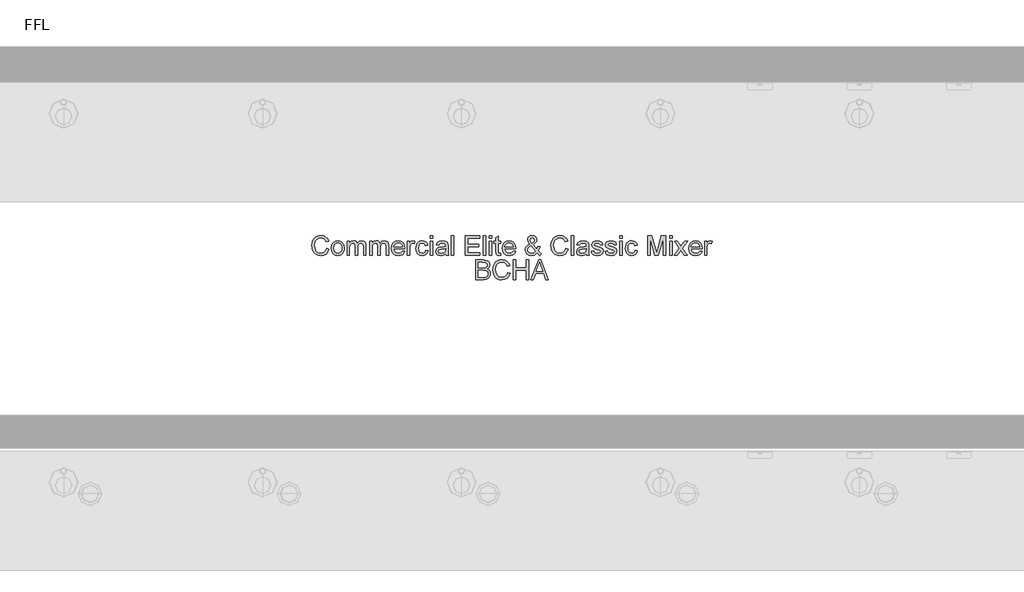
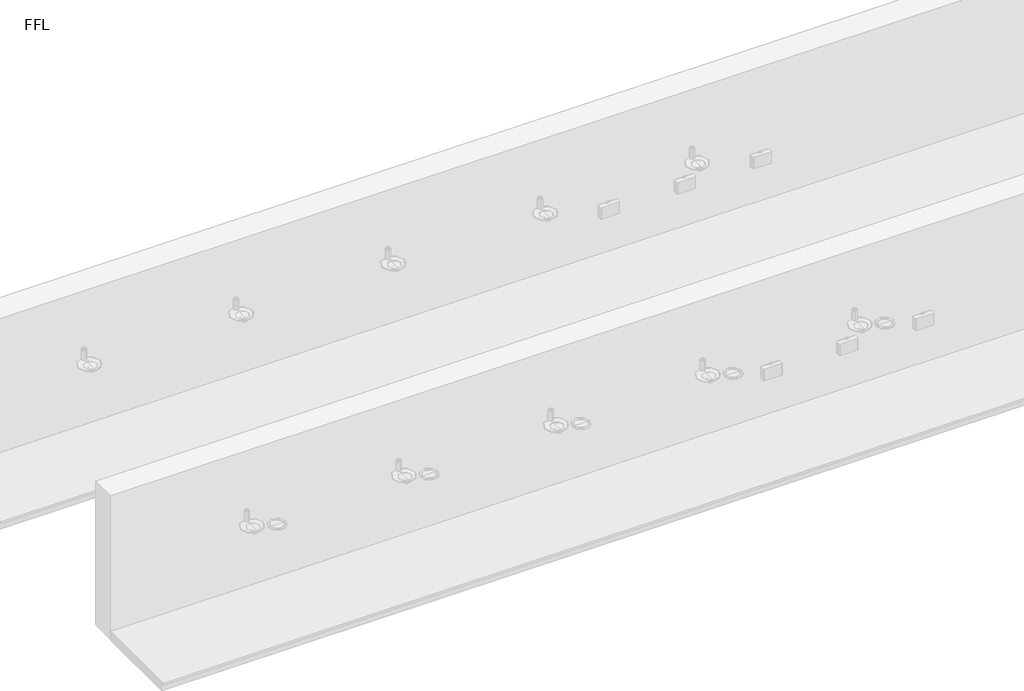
# One storey, part 4 of 13: 1 proxy.
"""IFC4 building model written with IfcOpenShell, lengths in millimetres."""

from ifc_helpers import new_model, si_unit, origin, origin_with_axes, place, context, project, spatial, polyline, outline, extrude, element, save

model = new_model("IFC4")

# Units and contexts
model_context = context("Model", 3, world=origin())
ifc_project = project(units=[si_unit("LENGTHUNIT", "METRE", prefix="MILLI")], contexts=[model_context])

# Site, building, storey
site = spatial("IfcSite", under=ifc_project)
building = spatial("IfcBuilding", under=site)
storey = spatial("IfcBuildingStorey", under=building, Name="FFL", Elevation=0.0)

# Proxy
placement = place(None, origin())
element("IfcBuildingElementProxy", 1, Name="150mm Arial", ObjectType="150mm Arial", at=placement, inside=storey, context=model_context, shape_type="SweptSolid", body=[
    extrude(outline(polyline([(-3737.4276006, -1683.6981691), (-3718.9660621, -1688.4577845), (-3727.4846919, -1709.9707052), (-3740.8530813, -1725.6873518), (-3758.4131775, -1735.301234), (-3779.5069275, -1738.5058614), (-3800.9206895, -1736.0809816), (-3817.9263986, -1728.8063422), (-3830.9612544, -1716.934347), (-3840.4624563, -1700.7173999), (-3846.2632376, -1681.6518951), (-3848.1968313, -1661.2342268), (-3846.0108337, -1639.6987701), (-3839.4528409, -1621.1020153), (-3828.865401, -1606.0344071), (-3814.5910621, -1595.0863903), (-3797.6619756, -1588.4202244), (-3779.1102929, -1586.1981691), (-3758.8684059, -1589.0737701), (-3742.1331294, -1597.700573), (-3729.4273001, -1611.5467268), (-3721.2737544, -1630.0803807), (-3739.7352929, -1634.4794191), (-3746.1355333, -1621.0163783), (-3754.8795236, -1611.7811018), (-3766.0754371, -1606.4400561), (-3779.8314467, -1604.6597076), (-3795.6878169, -1606.6338662), (-3808.7136583, -1612.5563422), (-3818.5979732, -1621.8051403), (-3825.029764, -1633.7582653), (-3829.7352929, -1661.1981691), (-3824.1643794, -1693.0010537), (-3817.0429852, -1704.8775561), (-3806.8206294, -1713.3195633), (-3794.5655212, -1718.3631331), (-3781.3458698, -1720.044323), (-3765.9357135, -1717.7546595), (-3753.0946679, -1710.8856691), (-3743.3996559, -1699.5094672), (-3737.4276006, -1683.6981691)])), origin_with_axes(), (0.0, 0.0, 1.0), 5.0),
    extrude(outline(polyline([(-3700.5045236, -1681.9673999), (-3696.5111342, -1655.8165585), (-3684.5309659, -1637.4361499), (-3669.7292833, -1628.4307412), (-3652.0069275, -1625.4289383), (-3632.6123962, -1629.0842869), (-3617.1211102, -1640.0503326), (-3606.9663626, -1657.4616908), (-3603.5814467, -1680.4529768), (-3605.0778409, -1699.1038182), (-3609.5670236, -1713.3015345), (-3616.9182857, -1723.9340465), (-3627.0009179, -1731.8892749), (-3638.9765789, -1736.8517148), (-3652.0069275, -1738.5058614), (-3671.6358337, -1734.8640345), (-3687.1090909, -1723.9385537), (-3697.1556655, -1706.1621114), (-3700.5045236, -1681.9673999)]), holes=[polyline([(-3682.0429852, -1681.9313422), (-3679.9065669, -1698.6395754), (-3673.4973121, -1710.543121), (-3663.8518794, -1717.6690225), (-3652.0069275, -1720.044323), (-3640.2160621, -1717.6555008), (-3630.5886583, -1710.4890345), (-3624.1794034, -1698.4277364), (-3622.0429852, -1681.3544191), (-3624.1929251, -1665.1329648), (-3630.6427448, -1653.3916787), (-3640.2836703, -1646.2657773), (-3652.0069275, -1643.8904768), (-3663.8518794, -1646.2567629), (-3673.4973121, -1653.355621), (-3679.9065669, -1665.2321234), (-3682.0429852, -1681.9313422)])]), origin_with_axes(), (0.0, 0.0, 1.0), 5.0),
    extrude(outline(polyline([(-3582.8122159, -1736.1981691), (-3582.8122159, -1627.7366307), (-3564.3506775, -1627.7366307), (-3564.3506775, -1645.5851883), (-3551.6583698, -1630.9637941), (-3533.5934659, -1625.4289383), (-3523.3260381, -1626.8396956), (-3515.0958698, -1631.0719672), (-3504.9276006, -1646.8832653), (-3490.5225525, -1630.7925201), (-3472.3314467, -1625.4289383), (-3458.4537424, -1627.6600081), (-3448.1908217, -1634.3532172), (-3441.8491751, -1645.6888542), (-3439.7352929, -1661.8472076), (-3439.7352929, -1736.1981691), (-3458.1968313, -1736.1981691), (-3458.1968313, -1669.7798999), (-3459.9095717, -1654.3652364), (-3466.1114948, -1646.7750922), (-3476.6583698, -1643.8904768), (-3486.6598722, -1645.7384335), (-3494.8134179, -1651.2823037), (-3500.2355934, -1660.9006932), (-3502.0429852, -1674.9722076), (-3502.0429852, -1736.1981691), (-3520.5045236, -1736.1981691), (-3520.5045236, -1667.7246114), (-3524.7773602, -1649.839996), (-3530.4158818, -1645.3778566), (-3538.7857736, -1643.8904768), (-3552.451639, -1647.856823), (-3561.5381775, -1659.4673999), (-3564.3506775, -1681.4986499), (-3564.3506775, -1736.1981691), (-3582.8122159, -1736.1981691)])), origin_with_axes(), (0.0, 0.0, 1.0), 5.0),
    extrude(outline(polyline([(-3412.0429852, -1736.1981691), (-3412.0429852, -1627.7366307), (-3393.5814467, -1627.7366307), (-3393.5814467, -1645.5851883), (-3380.889139, -1630.9637941), (-3362.8242352, -1625.4289383), (-3352.5568073, -1626.8396956), (-3344.326639, -1631.0719672), (-3334.1583698, -1646.8832653), (-3319.7533217, -1630.7925201), (-3301.5622159, -1625.4289383), (-3287.6845116, -1627.6600081), (-3277.4215909, -1634.3532172), (-3271.0799443, -1645.6888542), (-3268.9660621, -1661.8472076), (-3268.9660621, -1736.1981691), (-3287.4276006, -1736.1981691), (-3287.4276006, -1669.7798999), (-3289.1403409, -1654.3652364), (-3295.342264, -1646.7750922), (-3305.889139, -1643.8904768), (-3315.8906414, -1645.7384335), (-3324.0441871, -1651.2823037), (-3329.4663626, -1660.9006932), (-3331.2737544, -1674.9722076), (-3331.2737544, -1736.1981691), (-3349.7352929, -1736.1981691), (-3349.7352929, -1667.7246114), (-3354.0081294, -1649.839996), (-3359.646651, -1645.3778566), (-3368.0165429, -1643.8904768), (-3381.6824083, -1647.856823), (-3390.7689467, -1659.4673999), (-3393.5814467, -1681.4986499), (-3393.5814467, -1736.1981691), (-3412.0429852, -1736.1981691)])), origin_with_axes(), (0.0, 0.0, 1.0), 5.0),
    extrude(outline(polyline([(-3165.3362544, -1703.8904768), (-3147.2352929, -1706.1981691), (-3153.757228, -1719.8369912), (-3164.1643794, -1730.0323037), (-3178.2223722, -1736.387472), (-3195.6968313, -1738.5058614), (-3217.35849, -1734.8505129), (-3234.0261583, -1723.8844672), (-3244.6541631, -1706.3198638), (-3248.1968313, -1682.8688422), (-3244.6181054, -1658.6290585), (-3233.8819275, -1640.5010537), (-3217.4396198, -1629.1969672), (-3196.7425044, -1625.4289383), (-3176.6899203, -1629.1879528), (-3160.6667833, -1640.464996), (-3150.1604732, -1658.5569432), (-3146.6583698, -1682.7606691), (-3146.7665429, -1687.7366307), (-3229.7352929, -1687.7366307), (-3226.5396799, -1701.5557412), (-3219.1163025, -1711.714996), (-3208.4026607, -1717.9619912), (-3195.3362544, -1720.044323), (-3177.2352929, -1716.1861499), (-3165.3362544, -1703.8904768)]), holes=[polyline([(-3229.7352929, -1669.2750922), (-3165.1199083, -1669.2750922), (-3167.6169034, -1659.5214864), (-3172.5117352, -1652.544323), (-3183.2749563, -1646.0539383), (-3196.8146198, -1643.8904768), (-3209.2590309, -1645.6167388), (-3219.5489948, -1650.7955249), (-3226.7019395, -1658.8679408), (-3229.7352929, -1669.2750922)])]), origin_with_axes(), (0.0, 0.0, 1.0), 5.0),
    extrude(outline(polyline([(-3128.1968313, -1736.1981691), (-3128.1968313, -1627.7366307), (-3112.0429852, -1627.7366307), (-3112.0429852, -1643.7823037), (-3100.576639, -1628.9986499), (-3089.0381775, -1625.4289383), (-3070.5045236, -1631.1260537), (-3076.670389, -1647.6765345), (-3089.6511583, -1643.8904768), (-3100.0898602, -1647.5323037), (-3106.7425044, -1657.6284576), (-3109.7352929, -1679.1909576), (-3109.7352929, -1736.1981691), (-3128.1968313, -1736.1981691)])), origin_with_axes(), (0.0, 0.0, 1.0), 5.0),
    extrude(outline(polyline([(-2989.7352929, -1696.9673999), (-2971.2737544, -1699.2750922), (-2976.42099, -1715.6948638), (-2986.0934659, -1728.1032172), (-2999.3807256, -1735.9052004), (-3015.3723121, -1738.5058614), (-3035.0102328, -1734.8775561), (-3050.3663025, -1723.9926403), (-3060.2776607, -1706.3288783), (-3063.5814467, -1682.3640345), (-3057.9384179, -1651.6969672), (-3050.8170236, -1640.1990706), (-3040.7388986, -1631.9914383), (-3028.6821078, -1627.0695633), (-3015.6247159, -1625.4289383), (-3000.0252568, -1627.6825441), (-2987.5538025, -1634.4433614), (-2978.6069876, -1645.3508133), (-2973.5814467, -1660.044323), (-2992.0429852, -1662.3520153), (-3000.6066871, -1648.5238903), (-3015.4804852, -1643.8904768), (-3027.4110741, -1646.1711258), (-3036.8807256, -1653.013073), (-3043.0601126, -1664.7859095), (-3045.1199083, -1681.8592268), (-3043.1051847, -1699.1624119), (-3037.061014, -1710.9758133), (-3027.7626366, -1717.7771956), (-3015.9852929, -1720.044323), (-3006.4254972, -1718.6290585), (-2998.5874563, -1714.3832653), (-2992.8858337, -1707.1987701), (-2989.7352929, -1696.9673999)])), origin_with_axes(), (0.0, 0.0, 1.0), 5.0),
    extrude(outline(polyline([(-2955.1199083, -1606.9673999), (-2955.1199083, -1588.5058614), (-2936.6583698, -1588.5058614), (-2936.6583698, -1606.9673999), (-2955.1199083, -1606.9673999)])), origin_with_axes(), (0.0, 0.0, 1.0), 5.0),
    extrude(outline(polyline([(-2955.1199083, -1736.1981691), (-2955.1199083, -1627.7366307), (-2936.6583698, -1627.7366307), (-2936.6583698, -1736.1981691), (-2955.1199083, -1736.1981691)])), origin_with_axes(), (0.0, 0.0, 1.0), 5.0),
    extrude(outline(polyline([(-2839.7352929, -1722.3520153), (-2857.6379371, -1734.8640345), (-2877.4155813, -1738.5058614), (-2892.8437664, -1736.3153566), (-2904.2244756, -1729.7438422), (-2911.2422039, -1719.7648758), (-2913.5814467, -1707.3520153), (-2910.0477929, -1692.7486499), (-2900.7629371, -1682.1476883), (-2887.8362544, -1676.089996), (-2871.8626967, -1673.3135537), (-2839.8434659, -1666.9673999), (-2839.7352929, -1662.856823), (-2841.0063265, -1654.6176403), (-2844.8194275, -1649.2270153), (-2853.3470717, -1645.2246114), (-2865.2280813, -1643.8904768), (-2883.9059659, -1647.4421595), (-2892.8122159, -1660.044323), (-2911.2737544, -1657.7366307), (-2903.2869756, -1639.7077845), (-2887.2052448, -1629.1428807), (-2862.8482736, -1625.4289383), (-2840.4744756, -1628.7101883), (-2827.8362544, -1636.949371), (-2822.1751967, -1649.4794191), (-2821.2737544, -1665.6332653), (-2821.2737544, -1688.6020153), (-2820.3362544, -1720.6753326), (-2816.6583698, -1736.1981691), (-2835.1199083, -1736.1981691), (-2839.7352929, -1722.3520153)]), holes=[polyline([(-2839.7352929, -1685.4289383), (-2869.5189467, -1691.089996), (-2885.4023602, -1694.0827845), (-2892.5958698, -1698.950573), (-2895.1199083, -1706.0539383), (-2889.6211102, -1716.0419191), (-2873.4852929, -1720.044323), (-2854.8074083, -1715.6272557), (-2842.764139, -1704.9361499), (-2839.8434659, -1690.6573037), (-2839.7352929, -1685.4289383)])]), origin_with_axes(), (0.0, 0.0, 1.0), 5.0),
    extrude(outline(polyline([(-2795.889139, -1736.1981691), (-2795.889139, -1588.5058614), (-2777.4276006, -1588.5058614), (-2777.4276006, -1736.1981691), (-2795.889139, -1736.1981691)])), origin_with_axes(), (0.0, 0.0, 1.0), 5.0),
    extrude(outline(polyline([(-2689.7352929, -1736.1981691), (-2689.7352929, -1588.5058614), (-2583.5814467, -1588.5058614), (-2583.5814467, -1606.9673999), (-2671.2737544, -1606.9673999), (-2671.2737544, -1650.8135537), (-2588.1968313, -1650.8135537), (-2588.1968313, -1669.2750922), (-2671.2737544, -1669.2750922), (-2671.2737544, -1717.7366307), (-2581.2737544, -1717.7366307), (-2581.2737544, -1736.1981691), (-2689.7352929, -1736.1981691)])), origin_with_axes(), (0.0, 0.0, 1.0), 5.0),
    extrude(outline(polyline([(-2555.889139, -1736.1981691), (-2555.889139, -1588.5058614), (-2537.4276006, -1588.5058614), (-2537.4276006, -1736.1981691), (-2555.889139, -1736.1981691)])), origin_with_axes(), (0.0, 0.0, 1.0), 5.0),
    extrude(outline(polyline([(-2509.7352929, -1736.1981691), (-2509.7352929, -1627.7366307), (-2491.2737544, -1627.7366307), (-2491.2737544, -1736.1981691), (-2509.7352929, -1736.1981691)])), origin_with_axes(), (0.0, 0.0, 1.0), 5.0),
    extrude(outline(polyline([(-2509.7352929, -1606.9673999), (-2509.7352929, -1588.5058614), (-2491.2737544, -1588.5058614), (-2491.2737544, -1606.9673999), (-2509.7352929, -1606.9673999)])), origin_with_axes(), (0.0, 0.0, 1.0), 5.0),
    extrude(outline(polyline([(-2424.3506775, -1720.8015345), (-2422.0429852, -1736.7390345), (-2435.8530813, -1738.5058614), (-2451.3218313, -1735.4409576), (-2459.0381775, -1727.4000922), (-2461.2737544, -1706.450573), (-2461.2737544, -1646.1981691), (-2475.1199083, -1646.1981691), (-2475.1199083, -1627.7366307), (-2461.2737544, -1627.7366307), (-2461.2737544, -1601.3784576), (-2442.8122159, -1590.5250922), (-2442.8122159, -1627.7366307), (-2424.3506775, -1627.7366307), (-2424.3506775, -1646.1981691), (-2442.8122159, -1646.1981691), (-2442.8122159, -1705.9097076), (-2441.8386583, -1715.4289383), (-2438.6836102, -1718.8003326), (-2432.3915429, -1720.044323), (-2424.3506775, -1720.8015345)])), origin_with_axes(), (0.0, 0.0, 1.0), 5.0),
    extrude(outline(polyline([(-2329.951639, -1703.8904768), (-2311.8506775, -1706.1981691), (-2318.3726126, -1719.8369912), (-2328.779764, -1730.0323037), (-2342.8377568, -1736.387472), (-2360.3122159, -1738.5058614), (-2381.9738746, -1734.8505129), (-2398.6415429, -1723.8844672), (-2409.2695477, -1706.3198638), (-2412.8122159, -1682.8688422), (-2409.23349, -1658.6290585), (-2398.4973121, -1640.5010537), (-2382.0550044, -1629.1969672), (-2361.357889, -1625.4289383), (-2341.3053049, -1629.1879528), (-2325.2821679, -1640.464996), (-2314.7758578, -1658.5569432), (-2311.2737544, -1682.7606691), (-2311.3819275, -1687.7366307), (-2394.3506775, -1687.7366307), (-2391.1550645, -1701.5557412), (-2383.7316871, -1711.714996), (-2373.0180453, -1717.9619912), (-2359.951639, -1720.044323), (-2341.8506775, -1716.1861499), (-2329.951639, -1703.8904768)]), holes=[polyline([(-2394.3506775, -1669.2750922), (-2329.7352929, -1669.2750922), (-2332.2322881, -1659.5214864), (-2337.1271198, -1652.544323), (-2347.8903409, -1646.0539383), (-2361.4300044, -1643.8904768), (-2373.8744155, -1645.6167388), (-2384.1643794, -1650.7955249), (-2391.3173241, -1658.8679408), (-2394.3506775, -1669.2750922)])]), origin_with_axes(), (0.0, 0.0, 1.0), 5.0),
    extrude(outline(polyline([(-2150.420389, -1717.9529768), (-2169.9997159, -1733.3676403), (-2192.8963506, -1738.5058614), (-2213.2689467, -1734.7017749), (-2228.9540429, -1723.2895153), (-2237.0399804, -1710.1555008), (-2239.7352929, -1695.5611499), (-2237.5673241, -1682.6254528), (-2231.0634179, -1671.0058614), (-2220.2506174, -1660.7113903), (-2205.1559659, -1651.7510537), (-2218.0465909, -1633.0731691), (-2221.2737544, -1619.2270153), (-2218.7316871, -1606.7600682), (-2211.1054852, -1596.0419191), (-2199.6301246, -1588.6591066), (-2185.5405813, -1586.1981691), (-2172.1361342, -1588.5509335), (-2161.4179852, -1595.6092268), (-2154.3867352, -1605.9667989), (-2152.0429852, -1618.2173999), (-2153.7782616, -1628.5028566), (-2158.9840909, -1638.013073), (-2179.8074083, -1654.7077845), (-2153.0886583, -1687.9890345), (-2145.1199083, -1667.544323), (-2126.6583698, -1671.5467268), (-2139.7112544, -1701.9433614), (-2117.4276006, -1724.2991307), (-2131.2737544, -1738.5058614), (-2150.420389, -1717.9529768)]), holes=[polyline([(-2189.1463506, -1643.0611499), (-2173.9660621, -1631.6128326), (-2170.5045236, -1620.7414383), (-2175.0658217, -1609.1488903), (-2186.4780813, -1604.6597076), (-2198.1427448, -1609.1128326), (-2202.8122159, -1619.9842268), (-2201.2256775, -1626.7450441), (-2196.4300044, -1634.263073), (-2189.1463506, -1643.0611499)]), polyline([(-2162.7881775, -1704.6476883), (-2195.7449083, -1663.5058614), (-2216.0273602, -1678.9746114), (-2221.2737544, -1693.1092268), (-2219.4798842, -1701.8171595), (-2214.0982736, -1710.8496114), (-2205.4263986, -1717.7456451), (-2193.7617352, -1720.044323), (-2176.7965909, -1715.7534576), (-2162.7881775, -1704.6476883)])]), origin_with_axes(), (0.0, 0.0, 1.0), 5.0),
    extrude(outline(polyline([(-1935.1199083, -1683.6981691), (-1916.6583698, -1688.4577845), (-1925.1769996, -1709.9707052), (-1938.545389, -1725.6873518), (-1956.1054852, -1735.301234), (-1977.1992352, -1738.5058614), (-1998.6129972, -1736.0809816), (-2015.6187063, -1728.8063422), (-2028.6535621, -1716.934347), (-2038.154764, -1700.7173999), (-2043.9555453, -1681.6518951), (-2045.889139, -1661.2342268), (-2043.7031414, -1639.6987701), (-2037.1451486, -1621.1020153), (-2026.5577087, -1606.0344071), (-2012.2833698, -1595.0863903), (-1995.3542833, -1588.4202244), (-1976.8026006, -1586.1981691), (-1956.5607135, -1589.0737701), (-1939.8254371, -1597.700573), (-1927.1196078, -1611.5467268), (-1918.9660621, -1630.0803807), (-1937.4276006, -1634.4794191), (-1943.8278409, -1621.0163783), (-1952.5718313, -1611.7811018), (-1963.7677448, -1606.4400561), (-1977.5237544, -1604.6597076), (-1993.3801246, -1606.6338662), (-2006.4059659, -1612.5563422), (-2016.2902809, -1621.8051403), (-2022.7220717, -1633.7582653), (-2027.4276006, -1661.1981691), (-2021.8566871, -1693.0010537), (-2014.7352929, -1704.8775561), (-2004.5129371, -1713.3195633), (-1992.2578289, -1718.3631331), (-1979.0381775, -1720.044323), (-1963.6280212, -1717.7546595), (-1950.7869756, -1710.8856691), (-1941.0919635, -1699.5094672), (-1935.1199083, -1683.6981691)])), origin_with_axes(), (0.0, 0.0, 1.0), 5.0),
    extrude(outline(polyline([(-1893.5814467, -1736.1981691), (-1893.5814467, -1588.5058614), (-1875.1199083, -1588.5058614), (-1875.1199083, -1736.1981691), (-1893.5814467, -1736.1981691)])), origin_with_axes(), (0.0, 0.0, 1.0), 5.0),
    extrude(outline(polyline([(-1778.1968313, -1722.3520153), (-1796.0994756, -1734.8640345), (-1815.8771198, -1738.5058614), (-1831.3053049, -1736.3153566), (-1842.686014, -1729.7438422), (-1849.7037424, -1719.7648758), (-1852.0429852, -1707.3520153), (-1848.5093313, -1692.7486499), (-1839.2244756, -1682.1476883), (-1826.2977929, -1676.089996), (-1810.3242352, -1673.3135537), (-1778.3050044, -1666.9673999), (-1778.1968313, -1662.856823), (-1779.467865, -1654.6176403), (-1783.2809659, -1649.2270153), (-1791.8086102, -1645.2246114), (-1803.6896198, -1643.8904768), (-1822.3675044, -1647.4421595), (-1831.2737544, -1660.044323), (-1849.7352929, -1657.7366307), (-1841.748514, -1639.7077845), (-1825.6667833, -1629.1428807), (-1801.3098121, -1625.4289383), (-1778.936014, -1628.7101883), (-1766.2977929, -1636.949371), (-1760.6367352, -1649.4794191), (-1759.7352929, -1665.6332653), (-1759.7352929, -1688.6020153), (-1758.7977929, -1720.6753326), (-1755.1199083, -1736.1981691), (-1773.5814467, -1736.1981691), (-1778.1968313, -1722.3520153)]), holes=[polyline([(-1778.1968313, -1685.4289383), (-1807.9804852, -1691.089996), (-1823.8638986, -1694.0827845), (-1831.0574083, -1698.950573), (-1833.5814467, -1706.0539383), (-1828.0826486, -1716.0419191), (-1811.9468313, -1720.044323), (-1793.2689467, -1715.6272557), (-1781.2256775, -1704.9361499), (-1778.3050044, -1690.6573037), (-1778.1968313, -1685.4289383)])]), origin_with_axes(), (0.0, 0.0, 1.0), 5.0),
    extrude(outline(polyline([(-1741.2737544, -1703.8904768), (-1722.8122159, -1701.5827845), (-1719.9005573, -1709.4794191), (-1714.2665429, -1715.2847076), (-1694.6872159, -1720.044323), (-1675.8651006, -1715.6813422), (-1669.7352929, -1705.4409576), (-1675.9011583, -1697.1476883), (-1694.9035621, -1691.8832653), (-1722.7040429, -1682.8508133), (-1734.8374563, -1672.3039383), (-1738.9660621, -1657.4121114), (-1735.6487544, -1643.6561018), (-1726.5982736, -1633.1452845), (-1714.8614948, -1627.6825441), (-1698.9780813, -1625.4289383), (-1676.514139, -1629.0527364), (-1662.2352929, -1638.8604287), (-1655.889139, -1655.4289383), (-1674.3506775, -1657.7366307), (-1681.2917833, -1647.5503326), (-1697.5357736, -1643.8904768), (-1715.2040429, -1647.388073), (-1720.5045236, -1655.5371114), (-1718.3050044, -1660.9097076), (-1711.4179852, -1664.9842268), (-1695.5165429, -1668.9145153), (-1668.4191871, -1677.6044191), (-1655.8350525, -1687.4481691), (-1651.2737544, -1703.4938422), (-1656.6283217, -1721.1621114), (-1672.0790429, -1733.980621), (-1694.9396198, -1738.5058614), (-1713.5544034, -1736.324371), (-1727.139139, -1729.7798999), (-1736.2076486, -1718.9445633), (-1741.2737544, -1703.8904768)])), origin_with_axes(), (0.0, 0.0, 1.0), 5.0),
    extrude(outline(polyline([(-1637.4276006, -1703.8904768), (-1618.9660621, -1701.5827845), (-1616.0544034, -1709.4794191), (-1610.420389, -1715.2847076), (-1590.8410621, -1720.044323), (-1572.0189467, -1715.6813422), (-1565.889139, -1705.4409576), (-1572.0550044, -1697.1476883), (-1591.0574083, -1691.8832653), (-1618.857889, -1682.8508133), (-1630.9913025, -1672.3039383), (-1635.1199083, -1657.4121114), (-1631.8026006, -1643.6561018), (-1622.7521198, -1633.1452845), (-1611.0153409, -1627.6825441), (-1595.1319275, -1625.4289383), (-1572.6679852, -1629.0527364), (-1558.389139, -1638.8604287), (-1552.0429852, -1655.4289383), (-1570.5045236, -1657.7366307), (-1577.4456294, -1647.5503326), (-1593.6896198, -1643.8904768), (-1611.357889, -1647.388073), (-1616.6583698, -1655.5371114), (-1614.4588506, -1660.9097076), (-1607.5718313, -1664.9842268), (-1591.670389, -1668.9145153), (-1564.5730333, -1677.6044191), (-1551.9888986, -1687.4481691), (-1547.4276006, -1703.4938422), (-1552.7821679, -1721.1621114), (-1568.232889, -1733.980621), (-1591.0934659, -1738.5058614), (-1609.7082496, -1736.324371), (-1623.2929852, -1729.7798999), (-1632.3614948, -1718.9445633), (-1637.4276006, -1703.8904768)])), origin_with_axes(), (0.0, 0.0, 1.0), 5.0),
    extrude(outline(polyline([(-1526.6583698, -1736.1981691), (-1526.6583698, -1627.7366307), (-1508.1968313, -1627.7366307), (-1508.1968313, -1736.1981691), (-1526.6583698, -1736.1981691)])), origin_with_axes(), (0.0, 0.0, 1.0), 5.0),
    extrude(outline(polyline([(-1526.6583698, -1606.9673999), (-1526.6583698, -1588.5058614), (-1508.1968313, -1588.5058614), (-1508.1968313, -1606.9673999), (-1526.6583698, -1606.9673999)])), origin_with_axes(), (0.0, 0.0, 1.0), 5.0),
    extrude(outline(polyline([(-1411.2737544, -1696.9673999), (-1392.8122159, -1699.2750922), (-1397.9594515, -1715.6948638), (-1407.6319275, -1728.1032172), (-1420.9191871, -1735.9052004), (-1436.9107736, -1738.5058614), (-1456.5486943, -1734.8775561), (-1471.904764, -1723.9926403), (-1481.8161222, -1706.3288783), (-1485.1199083, -1682.3640345), (-1479.4768794, -1651.6969672), (-1472.3554852, -1640.1990706), (-1462.2773602, -1631.9914383), (-1450.2205693, -1627.0695633), (-1437.1631775, -1625.4289383), (-1421.5637184, -1627.6825441), (-1409.092264, -1634.4433614), (-1400.1454491, -1645.3508133), (-1395.1199083, -1660.044323), (-1413.5814467, -1662.3520153), (-1422.1451486, -1648.5238903), (-1437.0189467, -1643.8904768), (-1448.9495357, -1646.1711258), (-1458.4191871, -1653.013073), (-1464.5985741, -1664.7859095), (-1466.6583698, -1681.8592268), (-1464.6436462, -1699.1624119), (-1458.5994756, -1710.9758133), (-1449.3010982, -1717.7771956), (-1437.5237544, -1720.044323), (-1427.9639587, -1718.6290585), (-1420.1259179, -1714.3832653), (-1414.4242953, -1707.1987701), (-1411.2737544, -1696.9673999)])), origin_with_axes(), (0.0, 0.0, 1.0), 5.0),
    extrude(outline(polyline([(-1316.6583698, -1736.1981691), (-1316.6583698, -1588.5058614), (-1284.8915429, -1588.5058614), (-1254.6751967, -1692.6044191), (-1248.5814467, -1714.3472076), (-1241.982889, -1690.8015345), (-1212.2713506, -1588.5058614), (-1180.5045236, -1588.5058614), (-1180.5045236, -1736.1981691), (-1198.9660621, -1736.1981691), (-1198.9660621, -1606.9673999), (-1236.0694275, -1736.1981691), (-1261.0934659, -1736.1981691), (-1298.1968313, -1606.9673999), (-1298.1968313, -1736.1981691), (-1316.6583698, -1736.1981691)])), origin_with_axes(), (0.0, 0.0, 1.0), 5.0),
    extrude(outline(polyline([(-1150.5045236, -1736.1981691), (-1150.5045236, -1627.7366307), (-1132.0429852, -1627.7366307), (-1132.0429852, -1736.1981691), (-1150.5045236, -1736.1981691)])), origin_with_axes(), (0.0, 0.0, 1.0), 5.0),
    extrude(outline(polyline([(-1150.5045236, -1606.9673999), (-1150.5045236, -1588.5058614), (-1132.0429852, -1588.5058614), (-1132.0429852, -1606.9673999), (-1150.5045236, -1606.9673999)])), origin_with_axes(), (0.0, 0.0, 1.0), 5.0),
    extrude(outline(polyline([(-1115.889139, -1736.1981691), (-1076.4420236, -1681.6789383), (-1113.5814467, -1627.7366307), (-1091.3699083, -1627.7366307), (-1073.4492352, -1653.6981691), (-1065.0838506, -1665.9577845), (-1057.8362544, -1655.933746), (-1037.4276006, -1627.7366307), (-1015.2160621, -1627.7366307), (-1054.2304852, -1681.6789383), (-1016.6583698, -1736.1981691), (-1038.8699083, -1736.1981691), (-1061.4780813, -1703.4217268), (-1065.6247159, -1697.4361499), (-1093.6776006, -1736.1981691), (-1115.889139, -1736.1981691)])), origin_with_axes(), (0.0, 0.0, 1.0), 5.0),
    extrude(outline(polyline([(-924.5670236, -1703.8904768), (-906.4660621, -1706.1981691), (-912.9879972, -1719.8369912), (-923.3951486, -1730.0323037), (-937.4531414, -1736.387472), (-954.9276006, -1738.5058614), (-976.5892592, -1734.8505129), (-993.2569275, -1723.8844672), (-1003.8849323, -1706.3198638), (-1007.4276006, -1682.8688422), (-1003.8488746, -1658.6290585), (-993.1126967, -1640.5010537), (-976.670389, -1629.1969672), (-955.9732736, -1625.4289383), (-935.9206895, -1629.1879528), (-919.8975525, -1640.464996), (-909.3912424, -1658.5569432), (-905.889139, -1682.7606691), (-905.9973121, -1687.7366307), (-988.9660621, -1687.7366307), (-985.7704491, -1701.5557412), (-978.3470717, -1711.714996), (-967.6334299, -1717.9619912), (-954.5670236, -1720.044323), (-936.4660621, -1716.1861499), (-924.5670236, -1703.8904768)]), holes=[polyline([(-988.9660621, -1669.2750922), (-924.3506775, -1669.2750922), (-926.8476727, -1659.5214864), (-931.7425044, -1652.544323), (-942.5057256, -1646.0539383), (-956.045389, -1643.8904768), (-968.4898001, -1645.6167388), (-978.779764, -1650.7955249), (-985.9327087, -1658.8679408), (-988.9660621, -1669.2750922)])]), origin_with_axes(), (0.0, 0.0, 1.0), 5.0),
    extrude(outline(polyline([(-887.4276006, -1736.1981691), (-887.4276006, -1627.7366307), (-871.2737544, -1627.7366307), (-871.2737544, -1643.7823037), (-859.8074083, -1628.9986499), (-848.2689467, -1625.4289383), (-829.7352929, -1631.1260537), (-835.9011583, -1647.6765345), (-848.8819275, -1643.8904768), (-859.3206294, -1647.5323037), (-865.9732736, -1657.6284576), (-868.9660621, -1679.1909576), (-868.9660621, -1736.1981691), (-887.4276006, -1736.1981691)])), origin_with_axes(), (0.0, 0.0, 1.0), 5.0),
    extrude(outline(polyline([(-2612.4276006, -1918.5058614), (-2612.4276006, -1770.8135537), (-2556.0694275, -1770.8135537), (-2528.467264, -1775.1585057), (-2519.1914227, -1780.6708254), (-2512.1691871, -1788.5178807), (-2506.2737544, -1807.4121114), (-2511.2316871, -1824.6657172), (-2526.2136583, -1837.7366307), (-2515.7524203, -1843.199371), (-2508.0225525, -1851.5106691), (-2503.2494155, -1862.1206451), (-2501.6583698, -1874.4794191), (-2506.0033217, -1894.3291787), (-2516.7665429, -1908.4637941), (-2532.8302448, -1915.9637941), (-2556.5021198, -1918.5058614), (-2612.4276006, -1918.5058614)]), holes=[polyline([(-2593.9660621, -1830.8135537), (-2560.2521198, -1830.8135537), (-2540.5646198, -1829.2270153), (-2528.7196679, -1822.3940826), (-2524.7352929, -1810.3688422), (-2528.4492352, -1798.325573), (-2539.0862544, -1791.2041787), (-2562.8122159, -1789.2750922), (-2593.9660621, -1789.2750922), (-2593.9660621, -1830.8135537)]), polyline([(-2593.9660621, -1900.044323), (-2556.1054852, -1900.044323), (-2542.4035621, -1899.3231691), (-2530.811014, -1895.3027364), (-2523.1307256, -1887.0996114), (-2520.1199083, -1874.6597076), (-2523.6535621, -1860.308746), (-2535.1018794, -1851.7450441), (-2557.9083698, -1849.2750922), (-2593.9660621, -1849.2750922), (-2593.9660621, -1900.044323)])]), origin_with_axes(), (0.0, 0.0, 1.0), 5.0),
    extrude(outline(polyline([(-2372.4276006, -1866.0058614), (-2353.9660621, -1870.7654768), (-2362.4846919, -1892.2783975), (-2375.8530813, -1907.9950441), (-2393.4131775, -1917.6089263), (-2414.5069275, -1920.8135537), (-2435.9206895, -1918.3886739), (-2452.9263986, -1911.1140345), (-2465.9612544, -1899.2420393), (-2475.4624563, -1883.0250922), (-2481.2632376, -1863.9595874), (-2483.1968313, -1843.5419191), (-2481.0108337, -1822.0064624), (-2474.4528409, -1803.4097076), (-2463.865401, -1788.3420994), (-2449.5910621, -1777.3940826), (-2432.6619756, -1770.7279167), (-2414.1102929, -1768.5058614), (-2393.8684059, -1771.3814624), (-2377.1331294, -1780.0082653), (-2364.4273001, -1793.8544191), (-2356.2737544, -1812.388073), (-2374.7352929, -1816.7871114), (-2381.1355333, -1803.3240706), (-2389.8795236, -1794.0887941), (-2401.0754371, -1788.7477484), (-2414.8314467, -1786.9673999), (-2430.6878169, -1788.9415585), (-2443.7136583, -1794.8640345), (-2453.5979732, -1804.1128326), (-2460.029764, -1816.0659576), (-2464.7352929, -1843.5058614), (-2459.1643794, -1875.308746), (-2452.0429852, -1887.1852484), (-2441.8206294, -1895.6272557), (-2429.5655212, -1900.6708254), (-2416.3458698, -1902.3520153), (-2400.9357135, -1900.0623518), (-2388.0946679, -1893.1933614), (-2378.3996559, -1881.8171595), (-2372.4276006, -1866.0058614)])), origin_with_axes(), (0.0, 0.0, 1.0), 5.0),
    extrude(outline(polyline([(-2328.5814467, -1918.5058614), (-2328.5814467, -1770.8135537), (-2310.1199083, -1770.8135537), (-2310.1199083, -1830.8135537), (-2231.6583698, -1830.8135537), (-2231.6583698, -1770.8135537), (-2213.1968313, -1770.8135537), (-2213.1968313, -1918.5058614), (-2231.6583698, -1918.5058614), (-2231.6583698, -1849.2750922), (-2310.1199083, -1849.2750922), (-2310.1199083, -1918.5058614), (-2328.5814467, -1918.5058614)])), origin_with_axes(), (0.0, 0.0, 1.0), 5.0),
    extrude(outline(polyline([(-2198.0886583, -1918.5058614), (-2139.1343313, -1770.8135537), (-2123.4131775, -1770.8135537), (-2064.4588506, -1918.5058614), (-2083.9660621, -1918.5058614), (-2100.8771198, -1872.3520153), (-2161.7064467, -1872.3520153), (-2178.5814467, -1918.5058614), (-2198.0886583, -1918.5058614)]), holes=[polyline([(-2154.9276006, -1853.8904768), (-2107.6199083, -1853.8904768), (-2120.9251967, -1817.5803807), (-2131.2737544, -1789.2750922), (-2140.4684659, -1814.4073037), (-2154.9276006, -1853.8904768)])]), origin_with_axes(), (0.0, 0.0, 1.0), 5.0),
])

save(model, "model.ifc")
